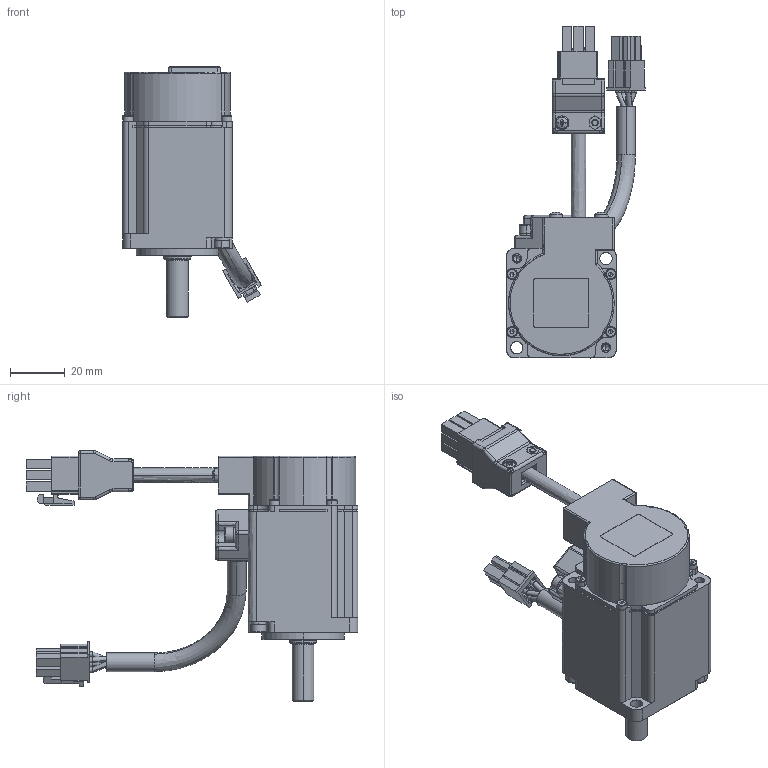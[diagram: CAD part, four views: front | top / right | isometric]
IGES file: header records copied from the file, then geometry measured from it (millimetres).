
Start section: SolidWorks IGES file using analytic representation for surfaces
Global section: file name: C:\景翔\圖面\20200518_SMESMP  馬達尺寸錯誤修正\(NEW)自行修改\3D-IGS\SME-L005.IGS; native system: SolidWorks 2016; preprocessor: SolidWorks 2016; author: 13521; date: 200518.163051; units: millimetre
Bounding box: 50.65 x 121 x 91.5 mm (x, y, z)
Surface area: 42917.3 mm2 (no closed solid volume)
Topology: 0 solids, 0 shells, 1751 faces, 17204 edges, 17096 vertices
Faces by surface type: bspline 1167, revolution 584
